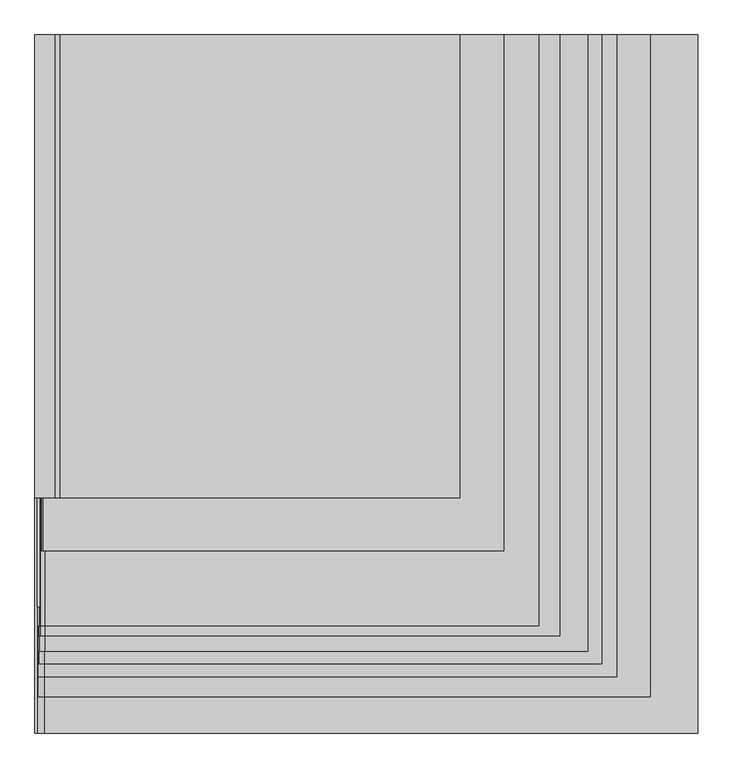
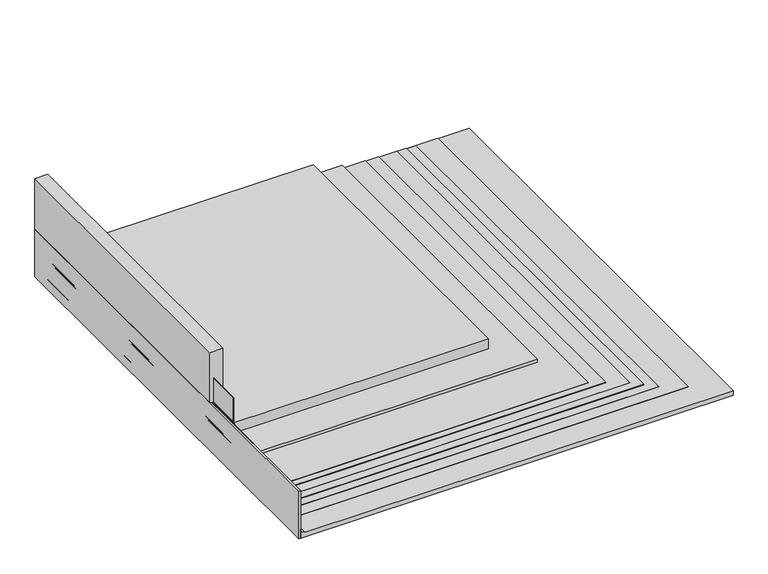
"""IFC4 building model written with IfcOpenShell, lengths in millimetres: proxy geometry, IMPER:IMPER:433934 : IMPER:IMPER:433934."""

from ifc_helpers import new_model, si_unit, point, frame, frame_2d, origin, place, context, project, spatial, polyline, circle_curve, trimmed, segment, composite_curve, outline, extrude, source, transform, mapped, element, save
from ifc_brep_helpers import plane_surface, cylinder_surface, revolved_surface, advanced_brep


def generic_models_c6a0f61b(model_context):
    return source(origin(), model_context, "Body", "SolidModel", [
        extrude(outline(polyline([(-352.9704105, 145.8700195), (-342.9704105, 145.8700195), (-342.9704105, -2708.2416892), (-352.9704105, -2708.2416892), (-352.9704105, 145.8700195)])), frame((0.0, 0.0, -3.523798), z_axis=(0.0, 0.0, 1.0), x_axis=(1.0, 0.0, 0.0)), (0.0, 0.0, 1.0), 313.5006718),
        extrude(outline(composite_curve([segment(polyline([(37.4968127, 1707.4269282), (38.4968127, 1707.4269282), (38.4968127, -312.8551599)]), True, "CONTINUOUS"), segment(trimmed(circle_curve(frame_2d((57.476202, -311.9704105)), 19.0), [point((38.4968127, -312.8551599))], [point((56.927788, -330.9624942))], True, "CARTESIAN"), True, "CONTINUOUS"), segment(polyline([(56.927788, -330.9624942), (163.6459496, -330.9624942)]), True, "CONTINUOUS"), segment(trimmed(circle_curve(frame_2d((163.6459496, -336.9154916)), 5.9529974), [point((163.6459496, -330.9624942))], [point((168.5147786, -333.4901911))], False, "CARTESIAN"), True, "CONTINUOUS"), segment(trimmed(circle_curve(frame_2d((173.549551, -329.502381)), 6.422738), [point((168.5147786, -333.4901911))], [point((173.549551, -335.925119))], True, "CARTESIAN"), True, "CONTINUOUS"), segment(polyline([(173.549551, -335.925119), (297.8564342, -335.925119), (302.4712479, -340.5399327), (302.4712479, -341.9591004), (301.4712479, -341.9591004), (301.4712479, -340.9541463), (297.4712479, -336.9541463), (173.4776741, -336.9541463)]), True, "CONTINUOUS"), segment(trimmed(circle_curve(frame_2d((173.859384, -328.7888279)), 8.1742355), [point((173.4776741, -336.9541463))], [point((167.9082305, -334.3925677))], False, "CARTESIAN"), True, "CONTINUOUS"), segment(trimmed(circle_curve(frame_2d((163.6459496, -336.9154916)), 4.9529974), [point((167.9082305, -334.3925677))], [point((163.6459496, -331.9624942))], True, "CARTESIAN"), True, "CONTINUOUS"), segment(polyline([(163.6459496, -331.9624942), (56.9135382, -331.9624942)]), True, "CONTINUOUS"), segment(trimmed(circle_curve(frame_2d((57.476202, -311.9704105)), 20.0), [point((56.9135382, -331.9624942))], [point((37.4968127, -312.8781566))], False, "CARTESIAN"), True, "CONTINUOUS"), segment(polyline([(37.4968127, -312.8781566), (37.4968127, 1707.4269282)]), True, "CONTINUOUS")], self_intersect=False)), frame((0.0, -2268.6283791, 0.0), z_axis=(0.0, 1.0, 0.0), x_axis=(0.0, 0.0, 1.0)), (0.0, 0.0, 1.0), 2414.4983986),
        extrude(outline(composite_curve([segment(polyline([(32.4968127, 1906.1092567), (33.4968127, 1906.1092567), (33.4968127, -312.9648392)]), True, "CONTINUOUS"), segment(trimmed(circle_curve(frame_2d((57.476202, -311.9704105)), 24.0), [point((33.4968127, -312.9648392))], [point((56.8598245, -335.9624942))], True, "CARTESIAN"), True, "CONTINUOUS"), segment(polyline([(56.8598245, -335.9624942), (164.0231996, -335.9624942)]), True, "CONTINUOUS"), segment(trimmed(circle_curve(frame_2d((173.859384, -328.7888279)), 12.1742355), [point((164.0231996, -335.9624942))], [point((173.3935088, -340.9541463))], True, "CARTESIAN"), True, "CONTINUOUS"), segment(polyline([(173.3935088, -340.9541463), (301.4712479, -340.9541463), (301.4712479, -341.9591004), (167.6425559, -341.9591004), (167.6425559, -340.9591004), (163.6459496, -336.9624942), (56.8471123, -336.9624942)]), True, "CONTINUOUS"), segment(trimmed(circle_curve(frame_2d((57.476202, -311.9704105)), 25.0), [point((56.8471123, -336.9624942))], [point((32.4968127, -312.9853538))], False, "CARTESIAN"), True, "CONTINUOUS"), segment(polyline([(32.4968127, -312.9853538), (32.4968127, 1906.1092567)]), True, "CONTINUOUS")], self_intersect=False)), frame((0.0, -2372.9793476, 0.0), z_axis=(0.0, 1.0, 0.0), x_axis=(0.0, 0.0, 1.0)), (0.0, 0.0, 1.0), 2518.8493671),
        extrude(outline(composite_curve([segment(polyline([(27.5018705, 2025.6221521), (28.4968127, 2025.6221521), (28.4968127, -314.0445492)]), True, "CONTINUOUS"), segment(trimmed(circle_curve(frame_2d((56.476202, -312.9704105)), 28.0), [point((28.4968127, -314.0445492))], [point((55.8104304, -340.9624942))], True, "CARTESIAN"), True, "CONTINUOUS"), segment(polyline([(55.8104304, -340.9624942), (165.6459496, -340.9624942), (165.6459496, -341.9591004), (55.6663512, -341.9591004)]), True, "CONTINUOUS"), segment(trimmed(circle_curve(frame_2d((56.476202, -312.9704105)), 29.0), [point((55.6663512, -341.9591004))], [point((27.5018705, -314.1902924))], False, "CARTESIAN"), True, "CONTINUOUS"), segment(polyline([(27.5018705, -314.1902924), (27.5018705, 2025.6221521)]), True, "CONTINUOUS")], self_intersect=False)), frame((0.0, -2478.9376415, 0.0), z_axis=(0.0, 1.0, 0.0), x_axis=(0.0, 0.0, 1.0)), (0.0, 0.0, 1.0), 2624.807661),
        extrude(outline(polyline([(-271.9704105, 145.8700195), (-251.9704105, 145.8700195), (-251.9704105, -1746.6992838), (-271.9704105, -1746.6992838), (-271.9704105, 145.8700195)])), frame((0.0, 0.0, 107.3018705), z_axis=(0.0, 0.0, 1.0), x_axis=(1.0, 0.0, 0.0)), (0.0, 0.0, 1.0), 20.0),
        advanced_brep(
        [(1383.8408996, 145.8700195, 127.3018705), (1383.8408996, 145.8700195, 58.4968127), (-330.9591004, 145.8700195, 58.4968127), (-330.9591004, 145.8700195, 163.6459496), (-333.4901911, 145.8700195, 168.5147786), (-335.925119, 145.8700195, 173.549551), (-335.925119, 145.8700195, 303.0941071), (-342.8078857, 145.8700195, 309.9768738), (-352.9704105, 145.8700195, 309.9768738), (-352.9704105, 145.8700195, 642.4712479), (-271.9704105, 145.8700195, 642.4712479), (-271.9704105, 145.8700195, 127.3018705), (-271.9704105, 145.8700195, 107.3018705), (-251.9704105, 145.8700195, 107.3018705), (-251.9704105, 145.8700195, 127.3018705), (1383.8408996, -1746.6992838, 127.3018705), (-251.9704105, -1746.6992838, 127.3018705), (-251.9704105, -1746.6992838, 107.3018705), (-271.9704105, -1746.6992838, 107.3018705), (-271.9704105, -1746.6992838, 127.3018705), (-271.9704105, -1746.6992838, 642.4712479), (-352.9704105, -1746.6992838, 642.4712479), (-352.9704105, -1746.6992838, 309.9768738), (-342.8078857, -1746.6992838, 309.9768738), (-335.925119, -1746.6992838, 303.0941071), (-335.925119, -1746.6992838, 173.549551), (-333.4901911, -1746.6992838, 168.5147786), (-330.9624942, -1746.6992838, 163.6459496), (-330.9591004, -1746.6992838, 58.4968127), (1383.8408996, -1746.6992838, 58.4968127)],
        [
            (0, 1),
            (1, 2),
            (2, 3),
            (3, 4, circle_curve(frame((-336.9154916, 145.8700195, 163.6459496), z_axis=(0.0, -1.0, 0.0), x_axis=(1.0, 0.0, 0.0)), 5.9529974)),
            (4, 5, circle_curve(frame((-329.502381, 145.8700195, 173.549551), z_axis=(0.0, 1.0, 0.0), x_axis=(1.0, 0.0, 0.0)), 6.422738)),
            (5, 6),
            (6, 7),
            (7, 8),
            (8, 9),
            (9, 10),
            (10, 11),
            (11, 12),
            (12, 13),
            (13, 14),
            (14, 0),
            (15, 16),
            (16, 17),
            (17, 18),
            (18, 19),
            (19, 20),
            (20, 21),
            (21, 22),
            (22, 23),
            (23, 24),
            (24, 25),
            (25, 26, circle_curve(frame((-329.502381, -1746.6992838, 173.549551), z_axis=(0.0, -1.0, 0.0), x_axis=(1.0, 0.0, 0.0)), 6.422738)),
            (26, 27, circle_curve(frame((-336.9154916, -1746.6992838, 163.6459496), z_axis=(0.0, 1.0, 0.0), x_axis=(1.0, 0.0, 0.0)), 5.9529974)),
            (27, 28),
            (28, 29),
            (29, 15),
            (0, 15),
            (29, 1),
            (28, 2),
            (27, 3),
            (8, 22),
            (21, 9),
            (20, 10),
            (19, 11),
            (18, 12),
            (17, 13),
            (16, 14),
            (26, 4),
            (25, 5),
            (24, 6),
            (23, 7),
        ],
        [
            plane_surface(frame((1383.8408996, 145.8700195, 57.3018705), z_axis=(0.0, 1.0, 0.0), x_axis=(0.0, 0.0, -1.0))),
            plane_surface(frame((1383.8408996, -1746.6992838, 57.3018705), z_axis=(0.0, -1.0, 0.0), x_axis=(0.0, 0.0, 1.0))),
            plane_surface(frame((1383.8408996, 145.8700195, 127.3018705), z_axis=(1.0, 0.0, 0.0), x_axis=(0.0, -1.0, 0.0))),
            plane_surface(frame((1383.8408996, 145.8700195, 58.4968127), z_axis=(0.0, 0.0, -1.0), x_axis=(0.0, -1.0, 0.0))),
            plane_surface(frame((-330.9591004, 145.8700195, 58.4968127), z_axis=(-1.0, 0.0, 0.0), x_axis=(0.0, -1.0, 0.0))),
            plane_surface(frame((-352.9704105, 145.8700195, 309.9768738), z_axis=(-1.0, 0.0, 0.0), x_axis=(0.0, -1.0, 0.0))),
            plane_surface(frame((-352.9704105, 145.8700195, 642.4712479), z_axis=(0.0, 0.0, 1.0), x_axis=(0.0, -1.0, 0.0))),
            plane_surface(frame((-271.9704105, 145.8700195, 642.4712479), z_axis=(1.0, 0.0, 0.0), x_axis=(0.0, -1.0, 0.0))),
            plane_surface(frame((-271.9704105, 145.8700195, 127.3018705), z_axis=(1.0, 0.0, 0.0), x_axis=(0.0, -1.0, 0.0))),
            plane_surface(frame((-271.9704105, 145.8700195, 107.3018705), z_axis=(0.0, 0.0, 1.0), x_axis=(0.0, -1.0, 0.0))),
            plane_surface(frame((-251.9704105, 145.8700195, 107.3018705), z_axis=(-1.0, 0.0, 0.0), x_axis=(0.0, -1.0, 0.0))),
            plane_surface(frame((-251.9704105, 145.8700195, 127.3018705), z_axis=(0.0, 0.0, 1.0), x_axis=(0.0, -1.0, 0.0))),
            revolved_surface(polyline([(-330.9624942, -1746.6992838, 163.6459496), (-330.9624942, 145.87001950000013, 163.6459496)]), (-336.9154916, -1746.6992838, 163.6459496), (0.0, -1.0, 0.0)),
            cylinder_surface(frame((-329.502381, -1746.6992838, 173.549551), z_axis=(0.0, 1.0, 0.0), x_axis=(1.0, 0.0, 0.0)), 6.422738),
            plane_surface(frame((-335.925119, 145.8700195, 173.549551), z_axis=(-1.0, 0.0, 0.0), x_axis=(0.0, -1.0, 0.0))),
            plane_surface(frame((-335.925119, 145.8700195, 303.0941071), z_axis=(-0.7071067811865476, 0.0, -0.7071067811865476), x_axis=(0.0, -1.0, 0.0))),
            plane_surface(frame((-342.8078857, 145.8700195, 309.9768738), z_axis=(0.0, 0.0, -1.0), x_axis=(0.0, -1.0, 0.0))),
        ],
        [
            (0, [[1, 2, 3, 4, 5, 6, 7, 8, 9, 10, 11, 12, 13, 14, 15]]),
            (1, [[16, 17, 18, 19, 20, 21, 22, 23, 24, 25, 26, 27, 28, 29, 30]]),
            (2, [[-1, 31, -30, 32]]),
            (3, [[-2, -32, -29, 33]]),
            (4, [[-3, -33, -28, 34]]),
            (5, [[-9, 35, -22, 36]]),
            (6, [[-10, -36, -21, 37]]),
            (7, [[-11, -37, -20, 38]]),
            (8, [[-12, -38, -19, 39]]),
            (9, [[-13, -39, -18, 40]]),
            (10, [[-14, -40, -17, 41]]),
            (11, [[-15, -41, -16, -31]]),
            (12, [[-4, -34, -27, 42]]),
            (13, [[-5, -42, -26, 43]]),
            (14, [[-6, -43, -25, 44]]),
            (15, [[-7, -44, -24, 45]]),
            (16, [[-8, -45, -23, -35]]),
        ],
    ),
        extrude(outline(composite_curve([segment(polyline([(58.4968127, 1564.0375058), (58.4968127, -325.9331593)]), True, "CONTINUOUS"), segment(trimmed(circle_curve(frame_2d((57.476202, -311.9704105)), 14.0), [point((58.4968127, -325.9331593))], [point((43.4968127, -312.7298014))], False, "CARTESIAN"), True, "CONTINUOUS"), segment(polyline([(43.4968127, -312.7298014), (43.4968127, -175.9704105), (38.4968127, -175.9704105), (38.4968127, 1564.0375058), (58.4968127, 1564.0375058)]), True, "CONTINUOUS")], self_intersect=False)), frame((0.0, -1963.6408586, 0.0), z_axis=(0.0, 1.0, 0.0), x_axis=(0.0, 0.0, 1.0)), (0.0, 0.0, 1.0), 2109.5108781),
        extrude(outline(polyline([(297.8564342, -335.925119), (290.9104549, -335.925119), (290.9104549, -332.925119), (300.0941071, -332.925119), (310.1439262, -342.9749381), (304.9062533, -342.9749381), (297.8564342, -335.925119)])), frame((0.0, -2191.1266924, 0.0), z_axis=(0.0, 1.0, 0.0), x_axis=(0.0, 0.0, 1.0)), (0.0, 0.0, 1.0), 2336.9967119),
        extrude(outline(composite_curve([segment(polyline([(162.3497254, -322.3591004), (64.8117312, -322.3591004), (64.8117312, -321.5591004), (162.3497254, -321.5591004)]), True, "CONTINUOUS"), segment(trimmed(circle_curve(frame_2d((162.3497254, -337.1120978)), 15.5529974), [point((162.3497254, -321.5591004))], [point((173.5866634, -326.3591004))], False, "CARTESIAN"), True, "CONTINUOUS"), segment(polyline([(173.5866634, -326.3591004), (297.476202, -326.3591004)]), True, "CONTINUOUS"), segment(trimmed(circle_curve(frame_2d((297.476202, -341.9120978)), 15.5529974), [point((297.476202, -326.3591004))], [point((308.71314, -331.1591004))], False, "CARTESIAN"), True, "CONTINUOUS"), segment(polyline([(308.71314, -331.1591004), (469.3391217, -331.1591004), (469.3391217, -331.9591004), (308.3660494, -331.9591004)]), True, "CONTINUOUS"), segment(trimmed(circle_curve(frame_2d((297.476202, -341.9120978)), 14.7529974), [point((308.3660494, -331.9591004))], [point((297.476202, -327.1591004))], True, "CARTESIAN"), True, "CONTINUOUS"), segment(polyline([(297.476202, -327.1591004), (173.2395727, -327.1591004)]), True, "CONTINUOUS"), segment(trimmed(circle_curve(frame_2d((162.3497254, -337.1120978)), 14.7529974), [point((173.2395727, -327.1591004))], [point((162.3497254, -322.3591004))], True, "CARTESIAN"), True, "CONTINUOUS")], self_intersect=False)), frame((0.0, -1963.6408586, 0.0), z_axis=(0.0, 1.0, 0.0), x_axis=(0.0, 0.0, 1.0)), (0.0, 0.0, 1.0), 2109.5108781),
        extrude(outline(composite_curve([segment(trimmed(circle_curve(frame_2d((56.476202, -312.9704105)), 30.0), [point((26.476202, -312.9704105))], [point((56.476202, -342.9704105))], True, "CARTESIAN"), True, "CONTINUOUS"), segment(polyline([(56.476202, -342.9704105), (-3.523798, -342.9704105), (-3.523798, 2357.0295895), (26.476202, 2357.0295895), (26.476202, -312.9704105)]), True, "CONTINUOUS")], self_intersect=False)), frame((0.0, -2708.2416892, 0.0), z_axis=(0.0, 1.0, 0.0), x_axis=(0.0, 0.0, 1.0)), (0.0, 0.0, 1.0), 2854.1117086),
        extrude(outline(composite_curve([segment(polyline([(55.6663512, -341.9591004), (302.4712479, -341.9591004), (302.4712479, -342.9704105), (56.476202, -342.9704105)]), True, "CONTINUOUS"), segment(trimmed(circle_curve(frame_2d((56.476202, -312.9704105)), 30.0), [point((56.476202, -342.9704105))], [point((26.476202, -312.9704105))], False, "CARTESIAN"), True, "CONTINUOUS"), segment(polyline([(26.476202, -312.9704105), (26.476202, 2162.8408996), (27.5018705, 2162.8408996), (27.5018705, -314.1902924)]), True, "CONTINUOUS"), segment(trimmed(circle_curve(frame_2d((56.476202, -312.9704105)), 29.0), [point((27.5018705, -314.1902924))], [point((55.6663512, -341.9591004))], True, "CARTESIAN"), True, "CONTINUOUS")], self_intersect=False)), frame((0.0, -2558.7854434, 0.0), z_axis=(0.0, 1.0, 0.0), x_axis=(0.0, 0.0, 1.0)), (0.0, 0.0, 1.0), 2704.6554629),
        extrude(outline(composite_curve([segment(trimmed(circle_curve(frame_2d((163.6459496, -336.9154916)), 4.9529974), [point((163.6459496, -331.9624942))], [point((167.9082305, -334.3925677))], False, "CARTESIAN"), True, "CONTINUOUS"), segment(trimmed(circle_curve(frame_2d((173.859384, -328.7888279)), 8.1742355), [point((167.9082305, -334.3925677))], [point((173.4776741, -336.9541463))], True, "CARTESIAN"), True, "CONTINUOUS"), segment(polyline([(173.4776741, -336.9541463), (297.4712479, -336.9541463), (301.4712479, -340.9541463), (173.3935088, -340.9541463)]), True, "CONTINUOUS"), segment(trimmed(circle_curve(frame_2d((173.859384, -328.7888279)), 12.1742355), [point((173.3935088, -340.9541463))], [point((164.0231996, -335.9624942))], False, "CARTESIAN"), True, "CONTINUOUS"), segment(polyline([(164.0231996, -335.9624942), (56.8598245, -335.9624942)]), True, "CONTINUOUS"), segment(trimmed(circle_curve(frame_2d((57.476202, -311.9704105)), 24.0), [point((56.8598245, -335.9624942))], [point((33.4968127, -312.9648392))], False, "CARTESIAN"), True, "CONTINUOUS"), segment(polyline([(33.4968127, -312.9648392), (33.4968127, 1792.4704111), (37.4968127, 1792.4704111), (37.4968127, -312.8781566)]), True, "CONTINUOUS"), segment(trimmed(circle_curve(frame_2d((57.476202, -311.9704105)), 20.0), [point((37.4968127, -312.8781566))], [point((56.9135382, -331.9624942))], True, "CARTESIAN"), True, "CONTINUOUS"), segment(polyline([(56.9135382, -331.9624942), (163.6459496, -331.9624942)]), True, "CONTINUOUS")], self_intersect=False)), frame((0.0, -2310.4740333, 0.0), z_axis=(0.0, 1.0, 0.0), x_axis=(0.0, 0.0, 1.0)), (0.0, 0.0, 1.0), 2456.3440527),
        extrude(outline(composite_curve([segment(polyline([(56.8471123, -336.9624942), (163.6459496, -336.9624942), (167.6425559, -340.9591004), (55.6804394, -340.9591004)]), True, "CONTINUOUS"), segment(trimmed(circle_curve(frame_2d((56.476202, -312.9704105)), 28.0), [point((55.6804394, -340.9591004))], [point((28.4968127, -314.0445492))], False, "CARTESIAN"), True, "CONTINUOUS"), segment(polyline([(28.4968127, -314.0445492), (28.4968127, 1964.4112423), (32.4968127, 1964.4112423), (32.4968127, -312.9853538)]), True, "CONTINUOUS"), segment(trimmed(circle_curve(frame_2d((57.476202, -311.9704105)), 25.0), [point((32.4968127, -312.9853538))], [point((56.8471123, -336.9624942))], True, "CARTESIAN"), True, "CONTINUOUS")], self_intersect=False)), frame((0.0, -2425.100387, 0.0), z_axis=(0.0, 1.0, 0.0), x_axis=(0.0, 0.0, 1.0)), (0.0, 0.0, 1.0), 2570.9704065),
    ])


if __name__ == "__main__":
    model = new_model("IFC4")
    model_context = context("Model", 3, world=origin())
    ifc_project = project(units=[si_unit("LENGTHUNIT", "METRE", prefix="MILLI")], contexts=[model_context])
    site = spatial("IfcSite", under=ifc_project)
    building = spatial("IfcBuilding", under=site)
    placement = place(None, origin())
    generic_models_shape = generic_models_c6a0f61b(model_context)
    element("IfcBuildingElementProxy", 1, Name="IMPER:IMPER:433934 : IMPER:IMPER:433934", ObjectType="IMPER:IMPER:433934 : IMPER:IMPER:433934", at=placement, inside=building, context=model_context, shape_type="MappedRepresentation", body=[
        mapped(generic_models_shape, transform((0.0, 0.0, 0.0), x_axis=(1.0, 0.0, 0.0), y_axis=(0.0, 1.0, 0.0), z_axis=(0.0, 0.0, 1.0))),
    ])
    save(model, "model.ifc")
